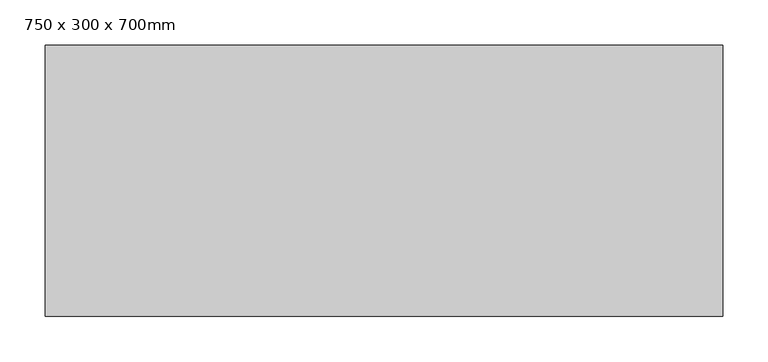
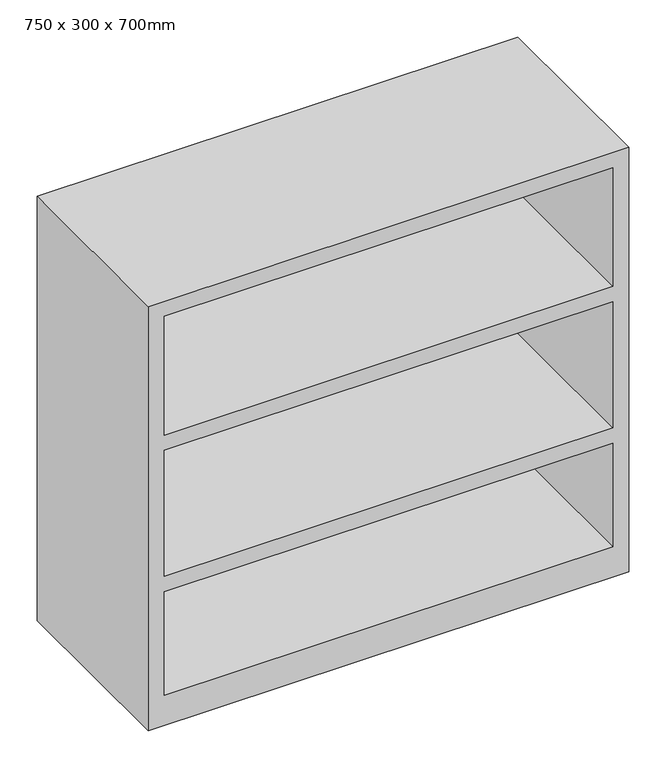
"""IFC4 building model written with IfcOpenShell, lengths in millimetres: furniture geometry, Shelving (Floor) - Allround : 750 x 300 x 700mm."""

import ifcopenshell
import ifcopenshell.guid

model = None  # the IFC model being written
_history = None  # IfcOwnerHistory: only IFC2X3 demands one
_inside = {}  # id of a spatial element -> (the spatial element, [elements in it])
_under = {}  # id of a project, library or spatial element -> (it, [spatial elements below it])
_declared = {}  # id of a project -> (the project, [libraries it declares])
_typed = {}  # id of a type object -> (the type object, [elements of that type])
_made_of = {}  # id of a material, layer set ... -> (it, [elements and type objects made of it])


def new_model(schema):
    """Start an empty IFC model of exactly this schema.

    Asked for "IFC4X3", IfcOpenShell would pick the latest addendum, in which some entities
    have other attributes; the version numbers below select the first issue.
    IFC2X3 requires an IfcOwnerHistory on every rooted entity: one is made here for all.
    """
    global model, _history
    if schema == "IFC4X3":
        model = ifcopenshell.file(schema_version=(4, 3, 0, 0))
    else:
        model = ifcopenshell.file(schema=schema)
    _inside.clear()
    _under.clear()
    _declared.clear()
    _typed.clear()
    _made_of.clear()
    _history = None
    if model.schema == "IFC2X3":
        org = make("IfcOrganization", Name="unknown")
        user = make(
            "IfcPersonAndOrganization",
            ThePerson=make("IfcPerson", FamilyName="unknown"),
            TheOrganization=org,
        )
        app = make(
            "IfcApplication",
            ApplicationDeveloper=org,
            Version="unknown",
            ApplicationFullName="unknown",
            ApplicationIdentifier="unknown",
        )
        _history = make(
            "IfcOwnerHistory",
            OwningUser=user,
            OwningApplication=app,
            ChangeAction="ADDED",
            CreationDate=0,
        )
    return model


def make(cls, **values):
    """One entity of the class cls with the attributes given. An attribute that is None is left unset."""
    return model.create_entity(
        cls, **{name: value for name, value in values.items() if value is not None}
    )


def rooted(cls, **values):
    """An entity with a GlobalId (a new one), such as an element, a storey or a relation."""
    return make(cls, GlobalId=ifcopenshell.guid.new(), OwnerHistory=_history, **values)


def si_unit(unit_type, name, prefix=None):
    """IfcSIUnit, for example si_unit("LENGTHUNIT", "METRE", prefix="MILLI")."""
    return make("IfcSIUnit", UnitType=unit_type, Prefix=prefix, Name=name)


def assignment(units):
    """IfcUnitAssignment: the units of a project."""
    return None if units is None else make("IfcUnitAssignment", Units=units)


def point(xyz):
    """IfcCartesianPoint."""
    return None if xyz is None else make("IfcCartesianPoint", Coordinates=xyz)


def direction(xyz):
    """IfcDirection."""
    return None if xyz is None else make("IfcDirection", DirectionRatios=xyz)


def frame(location, z_axis=None, x_axis=None):
    """IfcAxis2Placement3D, a coordinate frame: its origin and axes. An axis left out is left unset."""
    return make(
        "IfcAxis2Placement3D",
        Location=point(location),
        Axis=direction(z_axis),
        RefDirection=direction(x_axis),
    )


def origin():
    """The frame at (0, 0, 0) with its axes left unset."""
    return frame((0.0, 0.0, 0.0))


def place(relative_to, where):
    """IfcLocalPlacement: puts the frame where relative to a parent placement (None: the world)."""
    return make(
        "IfcLocalPlacement", PlacementRelTo=relative_to, RelativePlacement=where
    )


def context(
    kind, dimensions, precision=None, world=None, true_north=None, identifier=None
):
    """IfcGeometricRepresentationContext, for example the 3D "Model" context."""
    return make(
        "IfcGeometricRepresentationContext",
        ContextIdentifier=identifier,
        ContextType=kind,
        CoordinateSpaceDimension=dimensions,
        Precision=precision,
        WorldCoordinateSystem=world,
        TrueNorth=true_north,
    )


def project(units=None, contexts=None):
    """IfcProject with its units and contexts."""
    return rooted(
        "IfcProject",
        Name="project",
        RepresentationContexts=contexts,
        UnitsInContext=assignment(units),
    )


def spatial(cls, under=None, at=None, **own):
    """A site, building, storey or space (cls), placed at a placement, below another one or the project."""
    s = rooted(cls, ObjectPlacement=at, **own)
    if under is not None:
        _under.setdefault(under.id(), (under, []))[1].append(s)
    return s


def polyline(points):
    """IfcPolyline through the points."""
    return make("IfcPolyline", Points=[point(p) for p in points])


def outline(outer, holes=None, kind="AREA"):
    """IfcArbitraryClosedProfileDef: a profile drawn as a closed curve; with holes, ...WithVoids."""
    if holes is None:
        return make("IfcArbitraryClosedProfileDef", ProfileType=kind, OuterCurve=outer)
    return make(
        "IfcArbitraryProfileDefWithVoids",
        ProfileType=kind,
        OuterCurve=outer,
        InnerCurves=holes,
    )


def extrude(swept, where, along, depth):
    """IfcExtrudedAreaSolid: the profile swept, set in the frame where, extruded along a direction by depth."""
    return make(
        "IfcExtrudedAreaSolid",
        SweptArea=swept,
        Position=where,
        ExtrudedDirection=direction(along),
        Depth=depth,
    )


def shape(context_of_items, identifier, shape_type, items):
    """IfcShapeRepresentation: the items that make up one representation, for example the "Body"."""
    return make(
        "IfcShapeRepresentation",
        ContextOfItems=context_of_items,
        RepresentationIdentifier=identifier,
        RepresentationType=shape_type,
        Items=items,
    )


def source(mapping_origin, context_of_items, identifier, shape_type, items):
    """IfcRepresentationMap: a shape defined once, which mapped items show again and again."""
    return make(
        "IfcRepresentationMap",
        MappingOrigin=mapping_origin,
        MappedRepresentation=shape(context_of_items, identifier, shape_type, items),
    )


def transform(
    local_origin,
    x_axis=None,
    y_axis=None,
    z_axis=None,
    scale=None,
    scale2=None,
    scale3=None,
    uniform=True,
):
    """IfcCartesianTransformationOperator3D, or its non-uniform kind. x_axis, y_axis, z_axis: its Axis1, 2, 3."""
    if uniform:
        return make(
            "IfcCartesianTransformationOperator3D",
            Axis1=direction(x_axis),
            Axis2=direction(y_axis),
            LocalOrigin=point(local_origin),
            Scale=scale,
            Axis3=direction(z_axis),
        )
    return make(
        "IfcCartesianTransformationOperator3DnonUniform",
        Axis1=direction(x_axis),
        Axis2=direction(y_axis),
        LocalOrigin=point(local_origin),
        Scale=scale,
        Axis3=direction(z_axis),
        Scale2=scale2,
        Scale3=scale3,
    )


def mapped(mapping_source, mapping_target):
    """IfcMappedItem: shows the shape of a source again, moved by a transform."""
    return make(
        "IfcMappedItem", MappingSource=mapping_source, MappingTarget=mapping_target
    )


def made_of(thing, what):
    """Note that an element or type object is made of a material, layer set ...; save() writes the relation."""
    if what is not None:
        _made_of.setdefault(what.id(), (what, []))[1].append(thing)
    return thing


def element(
    cls,
    number,
    at=None,
    inside=None,
    cuts=None,
    type_object=None,
    material=None,
    context=None,
    identifier="Body",
    shape_type=None,
    held_by="IfcProductDefinitionShape",
    body=None,
    shapes=None,
    **own,
):
    """One element of the class cls, such as IfcWall. Its Tag is "e" and its number.

    at: its placement. inside: the storey or other place that contains it. cuts: it is an
    opening in that element (IfcRelVoidsElement). A single representation is given by context,
    identifier, shape_type and body (its items); several are given by shapes. held_by: the class
    of the entity that holds the representations. save() writes the other relations.
    """
    e = rooted(cls, Tag="e%d" % number, ObjectPlacement=at, **own)
    if body is not None:
        shapes = [shape(context, identifier, shape_type, body)]
    if shapes is not None:
        e.Representation = make(held_by, Representations=shapes)
    if inside is not None:
        _inside.setdefault(inside.id(), (inside, []))[1].append(e)
    if cuts is not None:
        rooted(
            "IfcRelVoidsElement", RelatingBuildingElement=cuts, RelatedOpeningElement=e
        )
    if type_object is not None:
        _typed.setdefault(type_object.id(), (type_object, []))[1].append(e)
    return made_of(e, material)


def aggregate(whole, parts):
    """IfcRelAggregates: a whole, such as a stair, and the parts it consists of."""
    return rooted("IfcRelAggregates", RelatingObject=whole, RelatedObjects=parts)


def save(model, path):
    """Write the relations noted so far, then the file.

    IfcRelAggregates (storeys below a building ...), IfcRelContainedInSpatialStructure (elements
    in a storey), IfcRelDefinesByType, IfcRelAssociatesMaterial and IfcRelDeclares: one each for
    every whole, place, type object, material and project.
    """
    for whole, parts in _under.values():
        aggregate(whole, parts)
    for where, things in _inside.values():
        rooted(
            "IfcRelContainedInSpatialStructure",
            RelatedElements=things,
            RelatingStructure=where,
        )
    for kind, things in _typed.values():
        rooted("IfcRelDefinesByType", RelatedObjects=things, RelatingType=kind)
    for what, things in _made_of.values():
        rooted("IfcRelAssociatesMaterial", RelatedObjects=things, RelatingMaterial=what)
    for by, libraries in _declared.values():
        rooted("IfcRelDeclares", RelatingContext=by, RelatedDefinitions=libraries)
    model.write(path)


def furniture_750_x_300_x_700mm_660817c4(model_context):
    return source(origin(), model_context, "Body", "SweptSolid", [
        extrude(outline(polyline([(0.0, 375.0), (700.0, 375.0), (700.0, -375.0), (0.0, -375.0), (0.0, 375.0)]), holes=[polyline([(675.0, 350.0), (479.3666667, 350.0), (479.3666667, -350.0), (675.0, -350.0), (675.0, 350.0)]), polyline([(50.0, 350.0), (50.0, -350.0), (220.6333333, -350.0), (220.6333333, 350.0), (50.0, 350.0)]), polyline([(453.9666667, -350.0), (453.9666667, 350.0), (246.0333333, 350.0), (246.0333333, -350.0), (453.9666667, -350.0)])]), frame((0.0, -454.8, 0.0), z_axis=(0.0, 1.0, 0.0), x_axis=(0.0, 0.0, 1.0)), (0.0, 0.0, 1.0), 300.0),
    ])


if __name__ == "__main__":
    model = new_model("IFC4")
    model_context = context("Model", 3, world=origin())
    ifc_project = project(units=[si_unit("LENGTHUNIT", "METRE", prefix="MILLI")], contexts=[model_context])
    site = spatial("IfcSite", under=ifc_project)
    building = spatial("IfcBuilding", under=site)
    placement = place(None, origin())
    furniture_750_x_300_x_700mm_shape = furniture_750_x_300_x_700mm_660817c4(model_context)
    element("IfcFurniture", 1, ObjectType="Shelving (Floor) - Allround : 750 x 300 x 700mm", at=placement, inside=building, context=model_context, shape_type="MappedRepresentation", body=[
        mapped(furniture_750_x_300_x_700mm_shape, transform((0.0, 0.0, 0.0), x_axis=(1.0, 0.0, 0.0), y_axis=(0.0, 1.0, 0.0), z_axis=(0.0, 0.0, 1.0))),
    ])
    save(model, "model.ifc")
